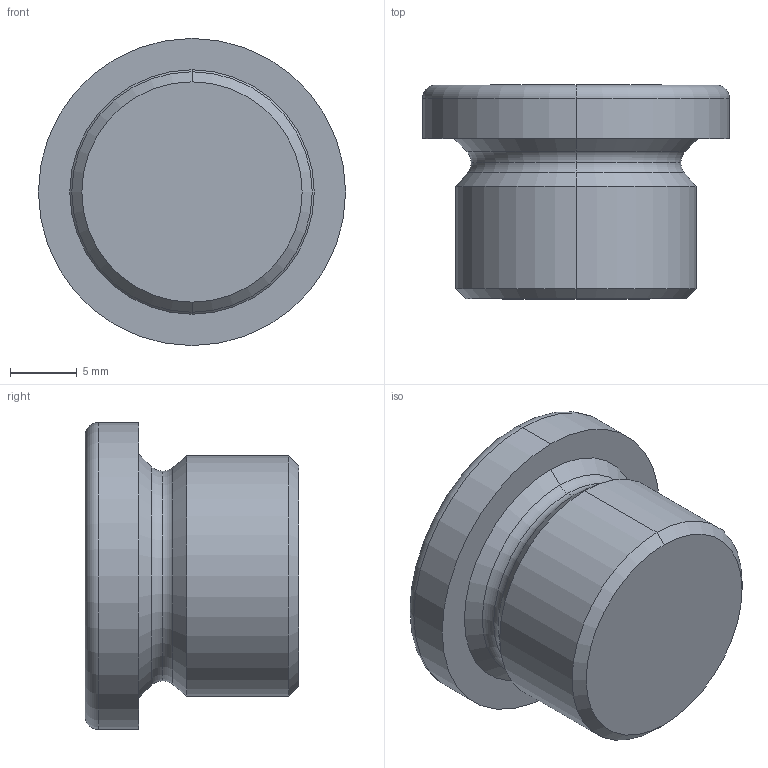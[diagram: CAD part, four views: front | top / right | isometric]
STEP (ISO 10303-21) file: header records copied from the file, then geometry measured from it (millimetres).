
FILE_DESCRIPTION (( 'STEP AP214' ), '1' );
FILE_NAME ('908-ST-M18x1,5-A.step', '2024-12-19T09:17:16', ( '' ), ( '' ), 'SwSTEP 2.0', 'SolidWorks 2022', '' );
FILE_SCHEMA (( 'AUTOMOTIVE_DESIGN' ));
Length unit declared in the file: millimetre
Products named in the file (1): 908-ST-M18x1,5-A
Bounding box: 23 x 16 x 23 mm (x, y, z)
Volume: 4137.3 mm3; surface area: 1972 mm2
Topology: 1 solids, 1 shells, 26 faces, 54 edges, 32 vertices
Faces by surface type: plane 10, torus 6, cone 6, cylinder 4
Entity records: 744 total; most frequent: DIRECTION 134, CARTESIAN_POINT 113, ORIENTED_EDGE 108, EDGE_CURVE 54, AXIS2_PLACEMENT_3D 53, VERTEX_POINT 32, EDGE_LOOP 28, VECTOR 28
